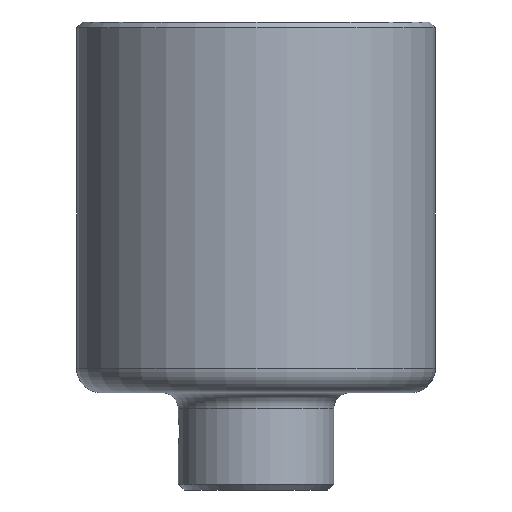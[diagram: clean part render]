
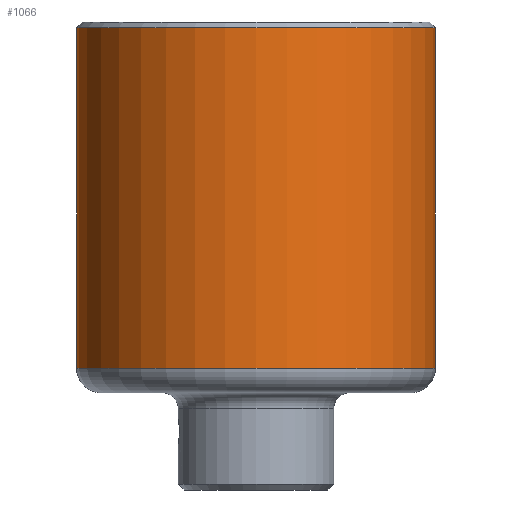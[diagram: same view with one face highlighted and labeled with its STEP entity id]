
A CAD part, front view. The second image highlights one B-rep face of the part: STEP entity #1066.
In plain terms, the highlighted cylindrical face has radius 45.974 mm (diameter 91.948 mm), a partial arc.
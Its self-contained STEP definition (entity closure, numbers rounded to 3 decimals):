
#14 = CARTESIAN_POINT ( 'NONE',  ( 0., 0., -18.796 ) ) ;
#223 = CIRCLE ( 'NONE', #680, 45.974 ) ;
#243 = VERTEX_POINT ( 'NONE', #246 ) ;
#246 = CARTESIAN_POINT ( 'NONE',  ( 45.974, 0., 68.326 ) ) ;
#269 = VERTEX_POINT ( 'NONE', #1682 ) ;
#274 = DIRECTION ( 'NONE',  ( 0., 0., 1. ) ) ;
#364 = EDGE_CURVE ( 'NONE', #409, #269, #1594, .T. ) ;
#367 = ORIENTED_EDGE ( 'NONE', *, *, #866, .T. ) ;
#381 = CYLINDRICAL_SURFACE ( 'NONE', #1268, 45.974 ) ;
#409 = VERTEX_POINT ( 'NONE', #580 ) ;
#432 = ORIENTED_EDGE ( 'NONE', *, *, #732, .F. ) ;
#494 = DIRECTION ( 'NONE',  ( 0., 0., 1. ) ) ;
#523 = ORIENTED_EDGE ( 'NONE', *, *, #364, .T. ) ;
#542 = EDGE_LOOP ( 'NONE', ( #1122, #523, #367, #432 ) ) ;
#580 = CARTESIAN_POINT ( 'NONE',  ( -45.974, 0., -18.796 ) ) ;
#618 = VERTEX_POINT ( 'NONE', #1360 ) ;
#624 = DIRECTION ( 'NONE',  ( 1., 0., 0. ) ) ;
#633 = CARTESIAN_POINT ( 'NONE',  ( -45.974, 0., 0. ) ) ;
#650 = FACE_OUTER_BOUND ( 'NONE', #542, .T. ) ;
#670 = LINE ( 'NONE', #794, #815 ) ;
#680 = AXIS2_PLACEMENT_3D ( 'NONE', #991, #1277, #624 ) ;
#732 = EDGE_CURVE ( 'NONE', #618, #243, #223, .T. ) ;
#794 = CARTESIAN_POINT ( 'NONE',  ( 45.974, 0., 0. ) ) ;
#797 = DIRECTION ( 'NONE',  ( 1., 0., 0. ) ) ;
#815 = VECTOR ( 'NONE', #274, 1000. ) ;
#866 = EDGE_CURVE ( 'NONE', #269, #243, #670, .T. ) ;
#922 = VECTOR ( 'NONE', #494, 1000. ) ;
#991 = CARTESIAN_POINT ( 'NONE',  ( 0., 0., 68.326 ) ) ;
#1066 = ADVANCED_FACE ( 'NONE', ( #650 ), #381, .T. ) ;
#1097 = DIRECTION ( 'NONE',  ( 1., 0., 0. ) ) ;
#1122 = ORIENTED_EDGE ( 'NONE', *, *, #1683, .F. ) ;
#1219 = DIRECTION ( 'NONE',  ( 0., 0., 1. ) ) ;
#1268 = AXIS2_PLACEMENT_3D ( 'NONE', #1570, #1453, #797 ) ;
#1271 = LINE ( 'NONE', #633, #922 ) ;
#1277 = DIRECTION ( 'NONE',  ( 0., 0., 1. ) ) ;
#1360 = CARTESIAN_POINT ( 'NONE',  ( -45.974, 0., 68.326 ) ) ;
#1391 = AXIS2_PLACEMENT_3D ( 'NONE', #14, #1219, #1097 ) ;
#1453 = DIRECTION ( 'NONE',  ( 0., 0., 1. ) ) ;
#1570 = CARTESIAN_POINT ( 'NONE',  ( 0., 0., 0. ) ) ;
#1594 = CIRCLE ( 'NONE', #1391, 45.974 ) ;
#1682 = CARTESIAN_POINT ( 'NONE',  ( 45.974, 0., -18.796 ) ) ;
#1683 = EDGE_CURVE ( 'NONE', #409, #618, #1271, .T. ) ;
